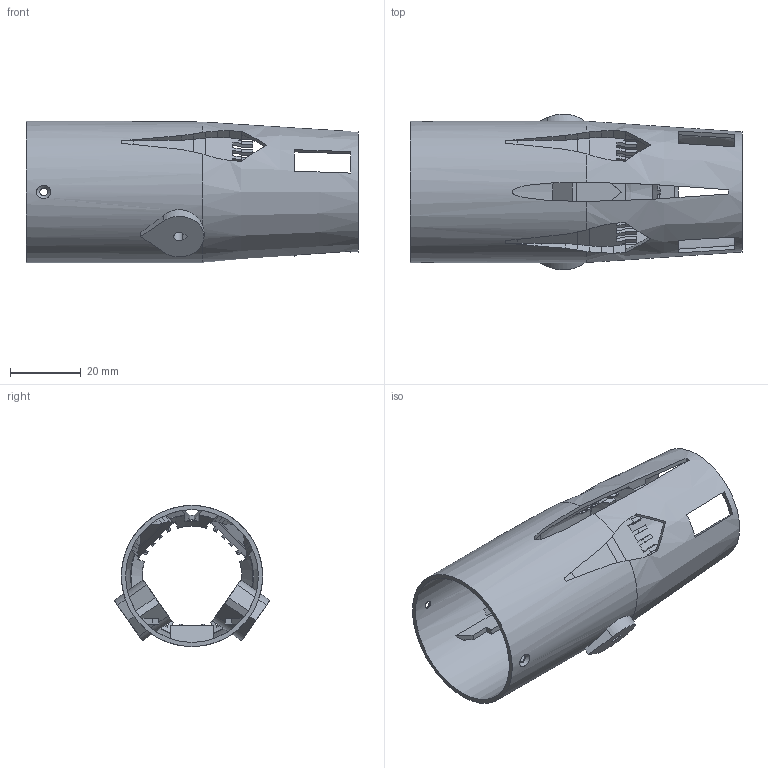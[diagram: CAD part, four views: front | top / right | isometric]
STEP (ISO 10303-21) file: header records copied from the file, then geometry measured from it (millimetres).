
FILE_DESCRIPTION(('Open CASCADE Model'),'2;1');
FILE_NAME('Open CASCADE Shape Model','2026-10-07T11:47:16',('Author'),( 'Open CASCADE'),'Open CASCADE STEP processor 7.9','Open CASCADE 7.9' ,'Unknown');
FILE_SCHEMA(('AUTOMOTIVE_DESIGN { 1 0 10303 214 1 1 1 1 }'));
Length unit declared in the file: millimetre
Products named in the file (1): Open CASCADE STEP translator 7.9 13
Bounding box: 94 x 44.07 x 40 mm (x, y, z)
Volume: 17170.7 mm3; surface area: 24186.9 mm2
Topology: 1 solids, 1 shells, 400 faces, 1195 edges, 791 vertices
Faces by surface type: plane 282, cylinder 66, bspline 42, cone 10
Full cylindrical faces by diameter (mm): 2.2 x2, 37.6 x1, 40 x1
Entity records: 35885 total; most frequent: CARTESIAN_POINT 15019, DIRECTION 2971, ORIENTED_EDGE 2390, PCURVE 2390, DEFINITIONAL_REPRESENTATION 2390, B_SPLINE_CURVE_WITH_KNOTS 1569, LINE 1532, VECTOR 1532
